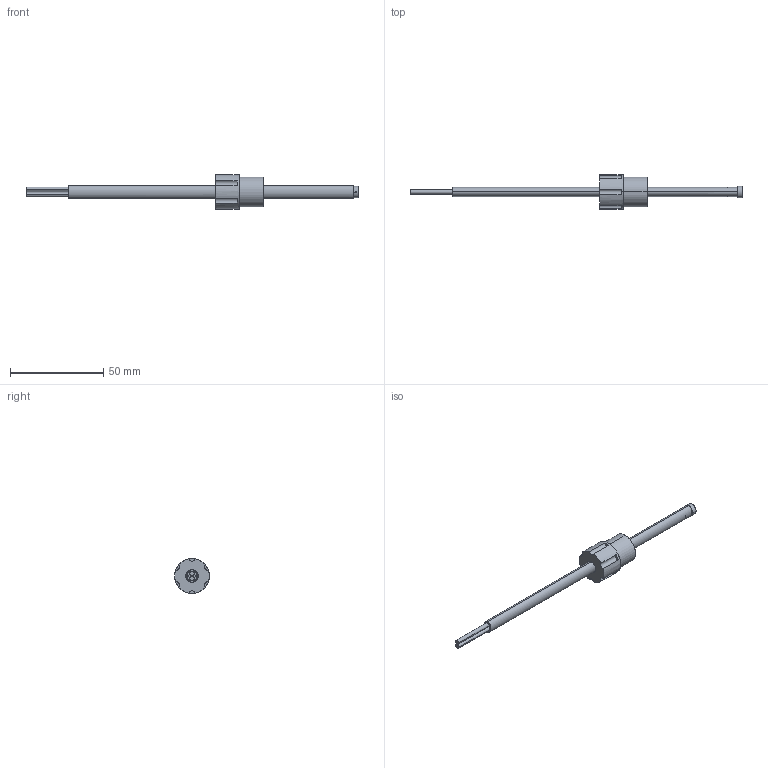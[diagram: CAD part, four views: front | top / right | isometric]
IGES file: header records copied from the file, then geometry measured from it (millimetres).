
Start section: SolidWorks IGES file using analytic representation for surfaces
Global section: file name: S:\Product Visuals\FILES FOR PUBLICATION\SOLID MODELS FOR PUBLICATION\30-fiber\igs\stroke-detection\sfd-fiber-optic-stroke-detect.IGS; native system: SolidWorks 2012; preprocessor: SolidWorks 2012; author: karen.bodily; date: 121121.150138; units: inch
Bounding box: 177.8 x 18.54 x 18.54 mm (x, y, z)
Surface area: 10255.8 mm2 (no closed solid volume)
Topology: 0 solids, 0 shells, 50 faces, 928 edges, 928 vertices
Faces by surface type: revolution 28, bspline 22
